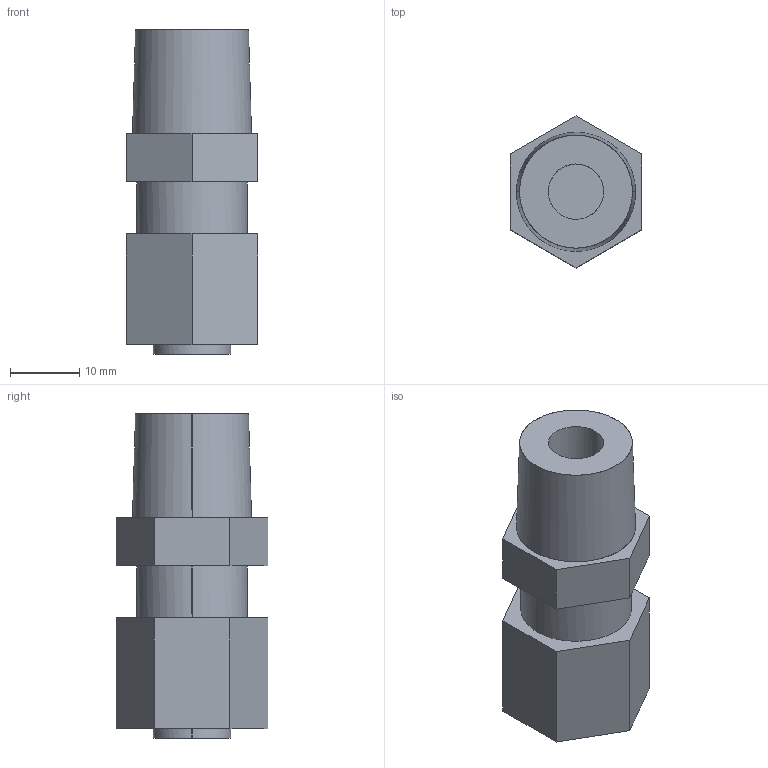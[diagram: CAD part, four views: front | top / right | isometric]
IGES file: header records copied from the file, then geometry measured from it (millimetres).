
Global section: file name: 17-10; native system: unknown; preprocessor: unknown; author: unknown; organization: unknown; date: 20250715.123110; units: millimetre
Bounding box: 19 x 21.94 x 46.9 mm (x, y, z)
Surface area: 4558.4 mm2 (no closed solid volume)
Topology: 0 solids, 0 shells, 30 faces, 172 edges, 172 vertices
Faces by surface type: bspline 20, revolution 10
